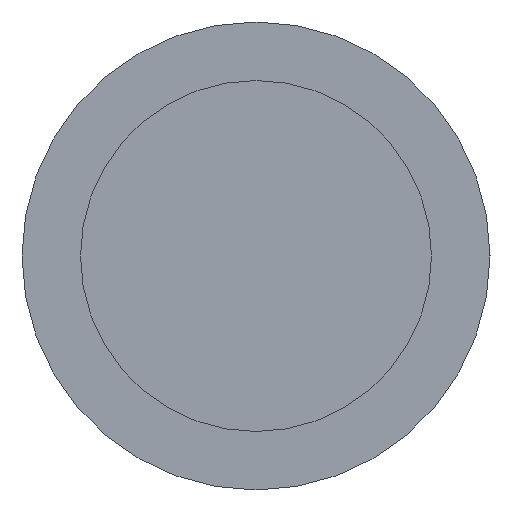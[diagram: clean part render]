
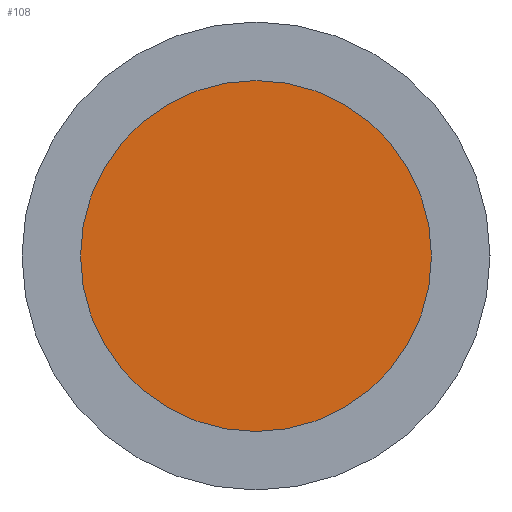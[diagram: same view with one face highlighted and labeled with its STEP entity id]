
A CAD part, left-side view. The second image highlights one B-rep face of the part: STEP entity #108.
In plain terms, the highlighted planar face has unit normal (-1, 0, 0).
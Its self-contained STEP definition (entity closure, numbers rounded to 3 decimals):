
#20=PLANE('',#143);
#26=FACE_OUTER_BOUND('',#35,.T.);
#35=EDGE_LOOP('',(#84));
#52=CIRCLE('',#141,1.5);
#60=VERTEX_POINT('',#200);
#69=EDGE_CURVE('',#60,#60,#52,.T.);
#84=ORIENTED_EDGE('',*,*,#69,.F.);
#108=ADVANCED_FACE('',(#26),#20,.F.);
#141=AXIS2_PLACEMENT_3D('',#202,#163,#164);
#143=AXIS2_PLACEMENT_3D('',#204,#167,#168);
#163=DIRECTION('center_axis',(1.,0.,0.));
#164=DIRECTION('ref_axis',(0.,1.,0.));
#167=DIRECTION('center_axis',(1.,0.,0.));
#168=DIRECTION('ref_axis',(0.,0.,-1.));
#200=CARTESIAN_POINT('',(0.,-1.5,0.));
#202=CARTESIAN_POINT('Origin',(0.,0.,0.));
#204=CARTESIAN_POINT('Origin',(0.,0.,0.));
